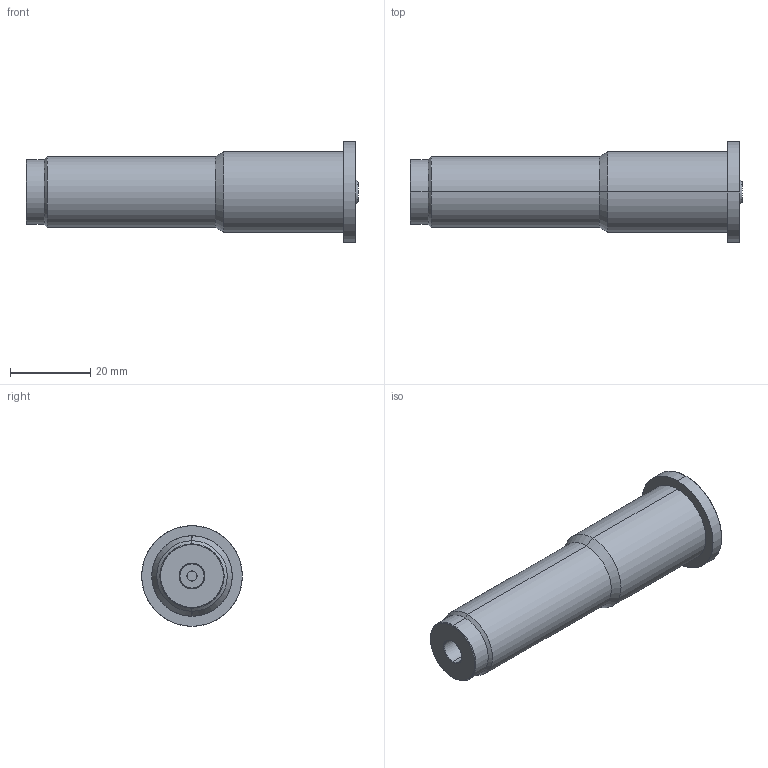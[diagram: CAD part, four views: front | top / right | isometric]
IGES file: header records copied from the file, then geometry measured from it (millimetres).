
Start section: SolidWorks IGES file using analytic representation for surfaces
Global section: file name: D:\IGS跡宒\AC2010.IGS,1; native system: 5HSolidWorks 2013; preprocessor: SolidWorks 2013; author: Administrator; date: 160406.152009; units: inch
Bounding box: 82.5 x 25 x 25 mm (x, y, z)
Surface area: 6847.3 mm2 (no closed solid volume)
Topology: 0 solids, 0 shells, 33 faces, 400 edges, 400 vertices
Faces by surface type: revolution 28, bspline 5
